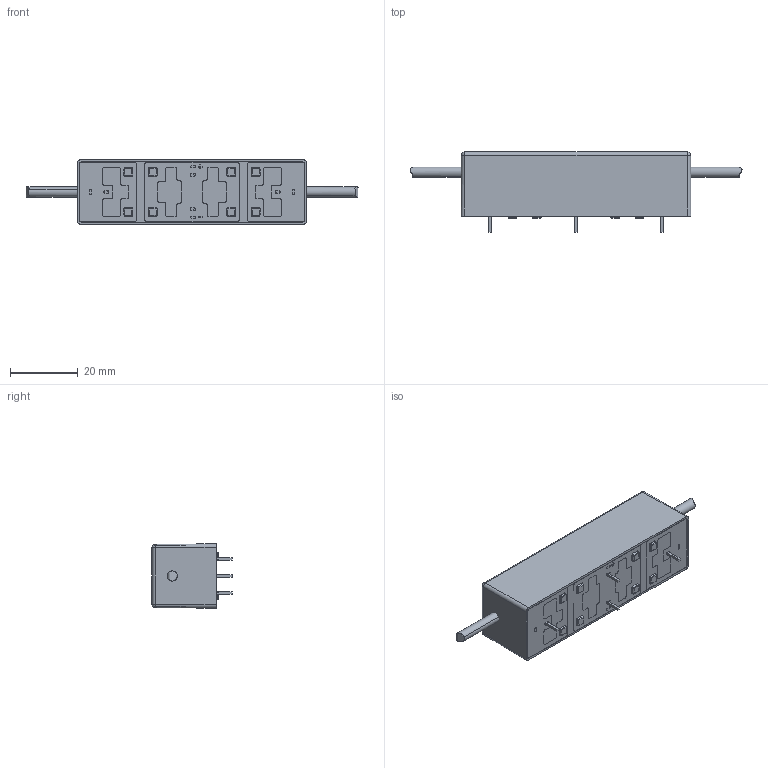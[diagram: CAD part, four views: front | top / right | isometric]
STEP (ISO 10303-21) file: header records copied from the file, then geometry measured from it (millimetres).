
FILE_DESCRIPTION (( 'STEP AP203' ), '1' );
FILE_NAME ('Series 600 - 620 1A or B FE-1.STEP', '2025-07-01T09:09:27', ( '' ), ( '' ), 'SwSTEP 2.0', 'SolidWorks 2023', '' );
FILE_SCHEMA (( 'CONFIG_CONTROL_DESIGN' ));
Length unit declared in the file: millimetre
Products named in the file (1): Series 600 - 620 1A or B FE-1
Bounding box: 98.22 x 23.7 x 19 mm (x, y, z)
Volume: 3251.2 mm3; surface area: 11880 mm2
Topology: 39 solids, 39 shells, 941 faces, 2408 edges, 1548 vertices
Faces by surface type: plane 439, cylinder 368, bspline 98, sphere 36
Entity records: 29305 total; most frequent: CARTESIAN_POINT 7338, ORIENTED_EDGE 4816, DIRECTION 4336, EDGE_CURVE 2408, VERTEX_POINT 1548, AXIS2_PLACEMENT_3D 1476, LINE 1384, VECTOR 1384
